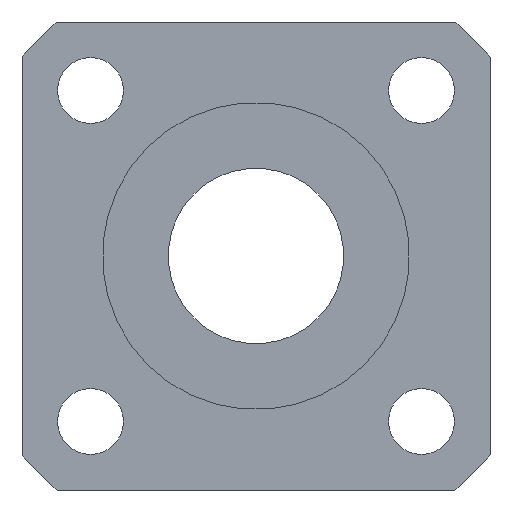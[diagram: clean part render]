
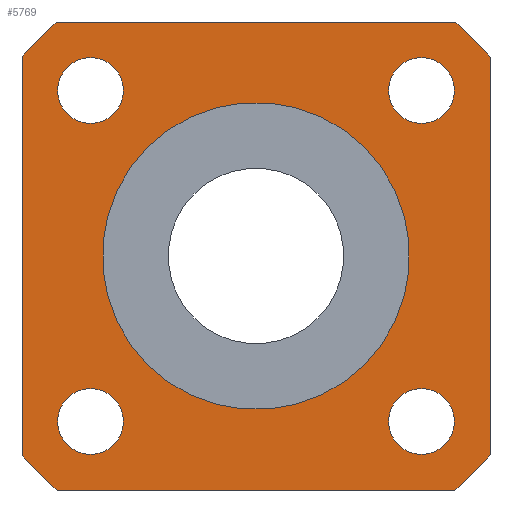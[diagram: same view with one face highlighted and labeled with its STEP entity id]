
A CAD part, left-side view. The second image highlights one B-rep face of the part: STEP entity #5769.
In plain terms, the highlighted planar face has unit normal (-1, 0, 0).
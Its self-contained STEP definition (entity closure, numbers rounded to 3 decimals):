
#107=CIRCLE('',#6120,21.);
#108=CIRCLE('',#6122,21.);
#109=CIRCLE('',#6124,21.);
#119=CIRCLE('',#6139,10.5);
#121=CIRCLE('',#6144,21.);
#122=CIRCLE('',#6145,2.25);
#123=CIRCLE('',#6146,2.25);
#124=CIRCLE('',#6147,2.25);
#125=CIRCLE('',#6148,2.25);
#337=LINE('',#9142,#1022);
#338=LINE('',#9143,#1023);
#339=LINE('',#9144,#1024);
#340=LINE('',#9148,#1025);
#1022=VECTOR('',#6703,1000.);
#1023=VECTOR('',#6704,1000.);
#1024=VECTOR('',#6705,1000.);
#1025=VECTOR('',#6708,1000.);
#1787=ORIENTED_EDGE('',*,*,#3451,.T.);
#1788=ORIENTED_EDGE('',*,*,#3434,.F.);
#1789=ORIENTED_EDGE('',*,*,#3452,.T.);
#1790=ORIENTED_EDGE('',*,*,#3437,.F.);
#1791=ORIENTED_EDGE('',*,*,#3453,.T.);
#1792=ORIENTED_EDGE('',*,*,#3454,.F.);
#1793=ORIENTED_EDGE('',*,*,#3455,.T.);
#1794=ORIENTED_EDGE('',*,*,#3432,.F.);
#1795=ORIENTED_EDGE('',*,*,#3456,.T.);
#1796=ORIENTED_EDGE('',*,*,#3457,.T.);
#1797=ORIENTED_EDGE('',*,*,#3458,.T.);
#1798=ORIENTED_EDGE('',*,*,#3459,.T.);
#1799=ORIENTED_EDGE('',*,*,#3449,.T.);
#3432=EDGE_CURVE('',#4266,#4267,#107,.T.);
#3434=EDGE_CURVE('',#4268,#4269,#108,.T.);
#3437=EDGE_CURVE('',#4270,#4271,#109,.T.);
#3449=EDGE_CURVE('',#4281,#4281,#119,.T.);
#3451=EDGE_CURVE('',#4266,#4269,#337,.T.);
#3452=EDGE_CURVE('',#4268,#4271,#338,.T.);
#3453=EDGE_CURVE('',#4270,#4283,#339,.T.);
#3454=EDGE_CURVE('',#4284,#4283,#121,.T.);
#3455=EDGE_CURVE('',#4284,#4267,#340,.T.);
#3456=EDGE_CURVE('',#4285,#4285,#122,.T.);
#3457=EDGE_CURVE('',#4286,#4286,#123,.T.);
#3458=EDGE_CURVE('',#4287,#4287,#124,.T.);
#3459=EDGE_CURVE('',#4288,#4288,#125,.T.);
#4266=VERTEX_POINT('',#9096);
#4267=VERTEX_POINT('',#9098);
#4268=VERTEX_POINT('',#9102);
#4269=VERTEX_POINT('',#9103);
#4270=VERTEX_POINT('',#9108);
#4271=VERTEX_POINT('',#9109);
#4281=VERTEX_POINT('',#9136);
#4283=VERTEX_POINT('',#9145);
#4284=VERTEX_POINT('',#9147);
#4285=VERTEX_POINT('',#9150);
#4286=VERTEX_POINT('',#9152);
#4287=VERTEX_POINT('',#9154);
#4288=VERTEX_POINT('',#9156);
#4745=EDGE_LOOP('',(#1787,#1788,#1789,#1790,#1791,#1792,#1793,#1794));
#4746=EDGE_LOOP('',(#1795));
#4747=EDGE_LOOP('',(#1796));
#4748=EDGE_LOOP('',(#1797));
#4749=EDGE_LOOP('',(#1798));
#4750=EDGE_LOOP('',(#1799));
#5152=FACE_BOUND('',#4745,.T.);
#5153=FACE_BOUND('',#4746,.T.);
#5154=FACE_BOUND('',#4747,.T.);
#5155=FACE_BOUND('',#4748,.T.);
#5156=FACE_BOUND('',#4749,.T.);
#5157=FACE_BOUND('',#4750,.T.);
#5504=PLANE('',#6143);
#5769=ADVANCED_FACE('',(#5152,#5153,#5154,#5155,#5156,#5157),#5504,.F.);
#6120=AXIS2_PLACEMENT_3D('',#9097,#6650,#6651);
#6122=AXIS2_PLACEMENT_3D('',#9101,#6655,#6656);
#6124=AXIS2_PLACEMENT_3D('',#9107,#6661,#6662);
#6139=AXIS2_PLACEMENT_3D('',#9135,#6693,#6694);
#6143=AXIS2_PLACEMENT_3D('',#9141,#6701,#6702);
#6144=AXIS2_PLACEMENT_3D('',#9146,#6706,#6707);
#6145=AXIS2_PLACEMENT_3D('',#9149,#6709,#6710);
#6146=AXIS2_PLACEMENT_3D('',#9151,#6711,#6712);
#6147=AXIS2_PLACEMENT_3D('',#9153,#6713,#6714);
#6148=AXIS2_PLACEMENT_3D('',#9155,#6715,#6716);
#6650=DIRECTION('',(1.,0.,0.));
#6651=DIRECTION('',(0.,0.707,-0.707));
#6655=DIRECTION('',(1.,0.,0.));
#6656=DIRECTION('',(0.,0.707,-0.707));
#6661=DIRECTION('',(1.,0.,0.));
#6662=DIRECTION('',(0.,0.707,-0.707));
#6693=DIRECTION('',(1.,0.,0.));
#6694=DIRECTION('',(0.,0.707,-0.707));
#6701=DIRECTION('',(1.,0.,0.));
#6702=DIRECTION('',(0.,0.707,-0.707));
#6703=DIRECTION('',(0.,0.,1.));
#6704=DIRECTION('',(0.,1.,0.));
#6705=DIRECTION('',(0.,0.,-1.));
#6706=DIRECTION('',(1.,0.,0.));
#6707=DIRECTION('',(0.,0.707,-0.707));
#6708=DIRECTION('',(0.,-1.,0.));
#6709=DIRECTION('',(1.,0.,0.));
#6710=DIRECTION('',(0.,0.707,-0.707));
#6711=DIRECTION('',(1.,0.,0.));
#6712=DIRECTION('',(0.,0.707,-0.707));
#6713=DIRECTION('',(1.,0.,0.));
#6714=DIRECTION('',(0.,0.707,-0.707));
#6715=DIRECTION('',(1.,0.,0.));
#6716=DIRECTION('',(0.,0.707,-0.707));
#9096=CARTESIAN_POINT('',(22.5,-16.,-13.601));
#9097=CARTESIAN_POINT('',(22.5,0.,0.));
#9098=CARTESIAN_POINT('',(22.5,-13.601,-16.));
#9101=CARTESIAN_POINT('',(22.5,0.,0.));
#9102=CARTESIAN_POINT('',(22.5,-13.601,16.));
#9103=CARTESIAN_POINT('',(22.5,-16.,13.601));
#9107=CARTESIAN_POINT('',(22.5,0.,0.));
#9108=CARTESIAN_POINT('',(22.5,16.,13.601));
#9109=CARTESIAN_POINT('',(22.5,13.601,16.));
#9135=CARTESIAN_POINT('',(22.5,0.,0.));
#9136=CARTESIAN_POINT('',(22.5,7.425,-7.425));
#9141=CARTESIAN_POINT('',(22.5,0.,0.));
#9142=CARTESIAN_POINT('',(22.5,-16.,16.));
#9143=CARTESIAN_POINT('',(22.5,16.,16.));
#9144=CARTESIAN_POINT('',(22.5,16.,-16.));
#9145=CARTESIAN_POINT('',(22.5,16.,-13.601));
#9146=CARTESIAN_POINT('',(22.5,0.,0.));
#9147=CARTESIAN_POINT('',(22.5,13.601,-16.));
#9148=CARTESIAN_POINT('',(22.5,-16.,-16.));
#9149=CARTESIAN_POINT('',(22.5,11.314,-11.314));
#9150=CARTESIAN_POINT('',(22.5,12.905,-12.905));
#9151=CARTESIAN_POINT('',(22.5,-11.314,-11.314));
#9152=CARTESIAN_POINT('',(22.5,-9.723,-12.905));
#9153=CARTESIAN_POINT('',(22.5,-11.314,11.314));
#9154=CARTESIAN_POINT('',(22.5,-9.723,9.723));
#9155=CARTESIAN_POINT('',(22.5,11.314,11.314));
#9156=CARTESIAN_POINT('',(22.5,12.905,9.723));
